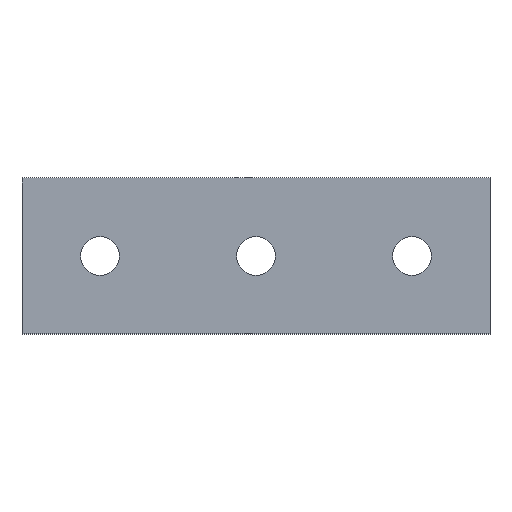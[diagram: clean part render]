
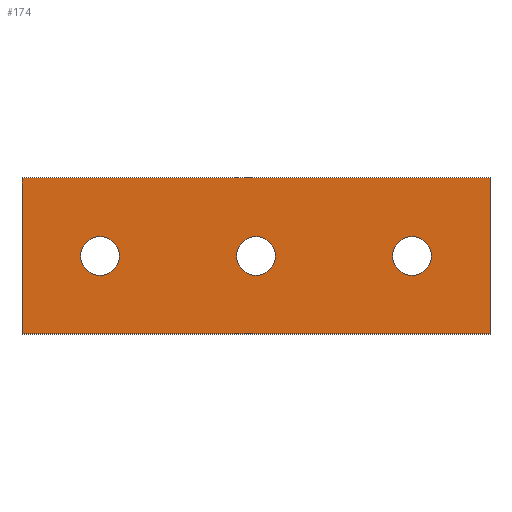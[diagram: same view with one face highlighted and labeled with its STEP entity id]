
A CAD part, top view. The second image highlights one B-rep face of the part: STEP entity #174.
In plain terms, the highlighted planar face has unit normal (0, 0, 1).
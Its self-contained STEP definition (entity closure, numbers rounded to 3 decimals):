
#15=FACE_BOUND('',#44,.T.);
#16=FACE_BOUND('',#45,.T.);
#17=FACE_BOUND('',#46,.T.);
#25=PLANE('',#203);
#34=FACE_OUTER_BOUND('',#43,.T.);
#43=EDGE_LOOP('',(#150,#151,#152,#153));
#44=EDGE_LOOP('',(#154));
#45=EDGE_LOOP('',(#155));
#46=EDGE_LOOP('',(#156));
#56=LINE('',#278,#71);
#59=LINE('',#284,#74);
#62=LINE('',#290,#77);
#65=LINE('',#294,#80);
#71=VECTOR('',#232,10.);
#74=VECTOR('',#237,10.);
#77=VECTOR('',#242,10.);
#80=VECTOR('',#247,10.);
#81=CIRCLE('',#191,2.5);
#83=CIRCLE('',#194,2.5);
#85=CIRCLE('',#197,2.5);
#87=VERTEX_POINT('',#254);
#89=VERTEX_POINT('',#260);
#91=VERTEX_POINT('',#266);
#95=VERTEX_POINT('',#275);
#96=VERTEX_POINT('',#277);
#98=VERTEX_POINT('',#283);
#100=VERTEX_POINT('',#289);
#101=EDGE_CURVE('',#87,#87,#81,.T.);
#104=EDGE_CURVE('',#89,#89,#83,.T.);
#107=EDGE_CURVE('',#91,#91,#85,.T.);
#112=EDGE_CURVE('',#96,#95,#56,.T.);
#115=EDGE_CURVE('',#98,#96,#59,.T.);
#118=EDGE_CURVE('',#100,#98,#62,.T.);
#121=EDGE_CURVE('',#95,#100,#65,.T.);
#150=ORIENTED_EDGE('',*,*,#121,.T.);
#151=ORIENTED_EDGE('',*,*,#118,.T.);
#152=ORIENTED_EDGE('',*,*,#115,.T.);
#153=ORIENTED_EDGE('',*,*,#112,.T.);
#154=ORIENTED_EDGE('',*,*,#107,.T.);
#155=ORIENTED_EDGE('',*,*,#104,.T.);
#156=ORIENTED_EDGE('',*,*,#101,.T.);
#174=ADVANCED_FACE('',(#34,#15,#16,#17),#25,.T.);
#191=AXIS2_PLACEMENT_3D('',#255,#209,#210);
#194=AXIS2_PLACEMENT_3D('',#261,#216,#217);
#197=AXIS2_PLACEMENT_3D('',#267,#223,#224);
#203=AXIS2_PLACEMENT_3D('',#295,#248,#249);
#209=DIRECTION('center_axis',(0.,0.,-1.));
#210=DIRECTION('ref_axis',(1.,0.,0.));
#216=DIRECTION('center_axis',(0.,0.,-1.));
#217=DIRECTION('ref_axis',(1.,0.,0.));
#223=DIRECTION('center_axis',(0.,0.,-1.));
#224=DIRECTION('ref_axis',(1.,0.,0.));
#232=DIRECTION('',(0.,-1.,0.));
#237=DIRECTION('',(-1.,0.,0.));
#242=DIRECTION('',(0.,1.,0.));
#247=DIRECTION('',(1.,0.,0.));
#248=DIRECTION('center_axis',(0.,0.,1.));
#249=DIRECTION('ref_axis',(1.,0.,0.));
#254=CARTESIAN_POINT('',(-2.5,0.,4.));
#255=CARTESIAN_POINT('Origin',(0.,0.,4.));
#260=CARTESIAN_POINT('',(17.5,0.,4.));
#261=CARTESIAN_POINT('Origin',(20.,0.,4.));
#266=CARTESIAN_POINT('',(-22.5,0.,4.));
#267=CARTESIAN_POINT('Origin',(-20.,0.,4.));
#275=CARTESIAN_POINT('',(-30.,-10.,4.));
#277=CARTESIAN_POINT('',(-30.,10.,4.));
#278=CARTESIAN_POINT('',(-30.,-10.,4.));
#283=CARTESIAN_POINT('',(30.,10.,4.));
#284=CARTESIAN_POINT('',(-30.,10.,4.));
#289=CARTESIAN_POINT('',(30.,-10.,4.));
#290=CARTESIAN_POINT('',(30.,10.,4.));
#294=CARTESIAN_POINT('',(30.,-10.,4.));
#295=CARTESIAN_POINT('Origin',(0.,0.,4.));
